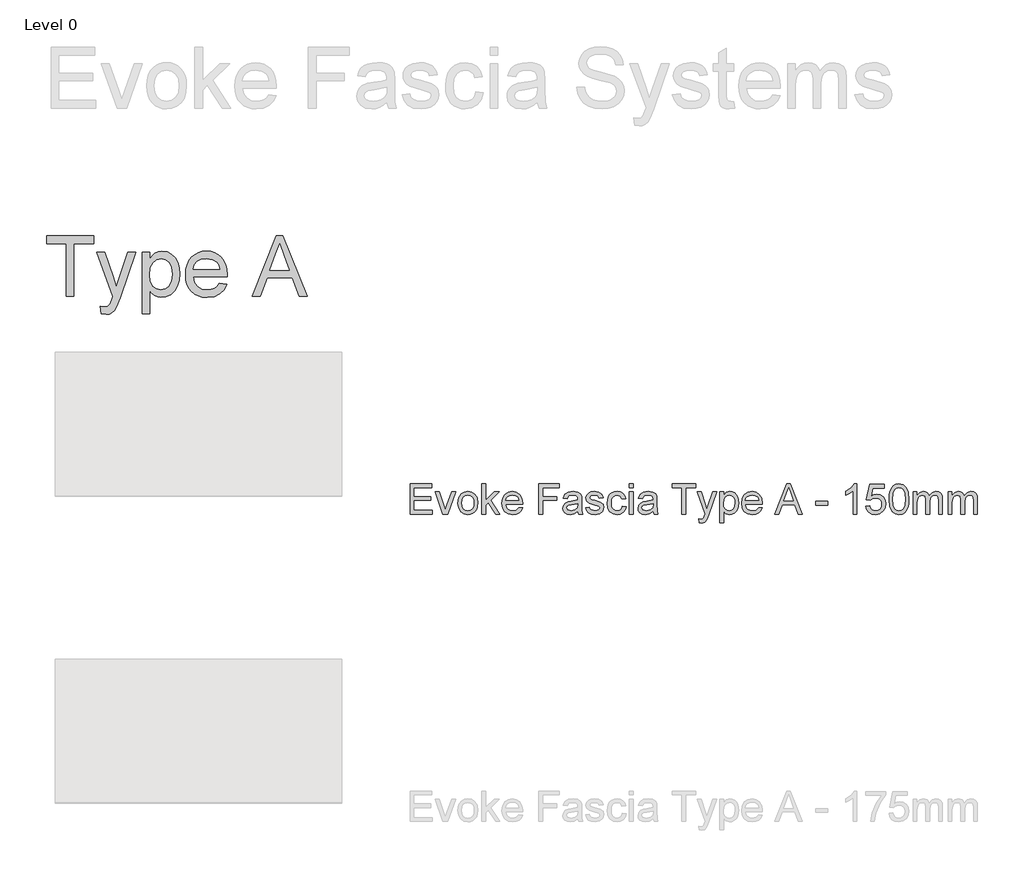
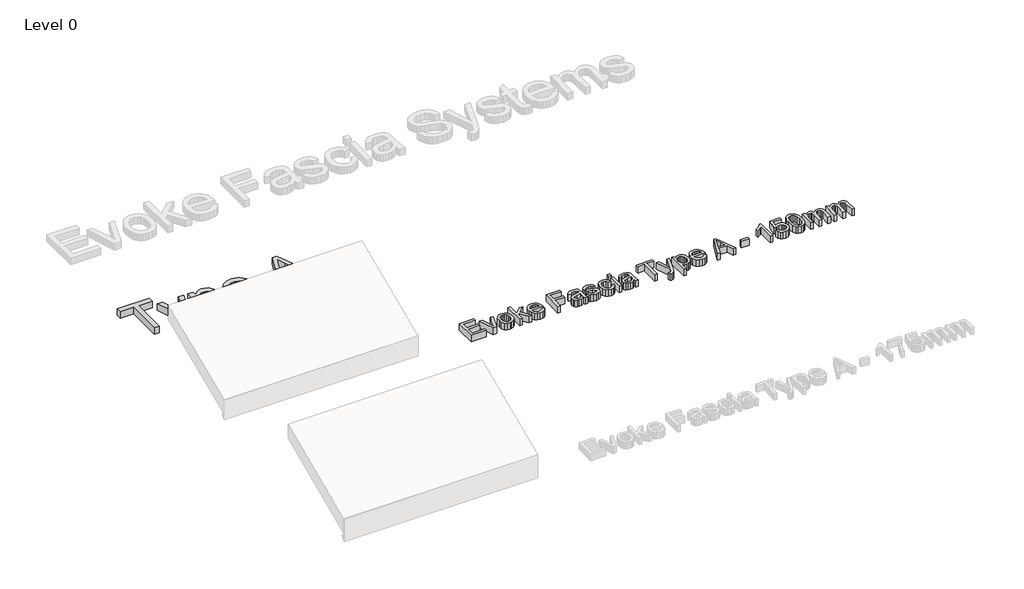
# One storey, part 7 of 13: 2 proxies.
"""IFC4 building model written with IfcOpenShell, lengths in millimetres."""

from ifc_helpers import new_model, si_unit, origin, origin_with_axes, place, context, project, spatial, polyline, outline, extrude, element, save

model = new_model("IFC4")

# Units and contexts
model_context = context("Model", 3, world=origin())
ifc_project = project(units=[si_unit("LENGTHUNIT", "METRE", prefix="MILLI")], contexts=[model_context])

# Site, building, storey
site = spatial("IfcSite", under=ifc_project)
building = spatial("IfcBuilding", under=site)
storey = spatial("IfcBuildingStorey", under=building, Name="Level 0", Elevation=0.0)

# Proxies
placement = place(None, origin())
element("IfcBuildingElementProxy", 1, Name="150mm Arial", ObjectType="150mm Arial", at=placement, inside=storey, context=model_context, shape_type="SweptSolid", body=[
    extrude(outline(polyline([(-1431.2798957, 7360.6682311), (-1431.2798957, 7508.3605388), (-1325.1260496, 7508.3605388), (-1325.1260496, 7489.8990003), (-1412.8183573, 7489.8990003), (-1412.8183573, 7446.0528465), (-1329.7414342, 7446.0528465), (-1329.7414342, 7427.591308), (-1412.8183573, 7427.591308), (-1412.8183573, 7379.1297695), (-1322.8183573, 7379.1297695), (-1322.8183573, 7360.6682311), (-1431.2798957, 7360.6682311)])), origin_with_axes(), (0.0, 0.0, 1.0), 50.0),
    extrude(outline(polyline([(-1270.823165, 7360.6682311), (-1308.9722034, 7469.1297695), (-1289.4289342, 7469.1297695), (-1266.3159534, 7404.153808), (-1259.3568188, 7382.3028465), (-1252.541915, 7402.9278465), (-1229.2847034, 7469.1297695), (-1209.7414342, 7469.1297695), (-1247.4217226, 7360.6682311), (-1270.823165, 7360.6682311)])), origin_with_axes(), (0.0, 0.0, 1.0), 50.0),
    extrude(outline(polyline([(-1198.2029726, 7414.8990003), (-1194.2095832, 7441.0498416), (-1182.229415, 7459.4302503), (-1167.4277323, 7468.435659), (-1149.7053765, 7471.4374618), (-1130.3108452, 7467.7821133), (-1114.8195592, 7456.8160676), (-1104.6648116, 7439.4047094), (-1101.2798957, 7416.4134234), (-1102.77629, 7397.762582), (-1107.2654726, 7383.5648657), (-1114.6167347, 7372.9323537), (-1124.6993669, 7364.9771253), (-1136.6750279, 7360.0146854), (-1149.7053765, 7358.3605388), (-1169.3342827, 7362.0023657), (-1184.80754, 7372.9278465), (-1194.8541145, 7390.7042888), (-1198.2029726, 7414.8990003)]), holes=[polyline([(-1179.7414342, 7414.935058), (-1177.6050159, 7398.2268248), (-1171.1957611, 7386.3232791), (-1161.5503284, 7379.1973777), (-1149.7053765, 7376.8220772), (-1137.9145111, 7379.2108993), (-1128.2871073, 7386.3773657), (-1121.8778525, 7398.4386638), (-1119.7414342, 7415.5119811), (-1121.8913741, 7431.7334354), (-1128.3411938, 7443.4747215), (-1137.9821193, 7450.6006229), (-1149.7053765, 7452.9759234), (-1161.5503284, 7450.6096373), (-1171.1957611, 7443.5107791), (-1177.6050159, 7431.6342767), (-1179.7414342, 7414.935058)])]), origin_with_axes(), (0.0, 0.0, 1.0), 50.0),
    extrude(outline(polyline([(-1080.510665, 7360.6682311), (-1080.510665, 7508.3605388), (-1062.0491265, 7508.3605388), (-1062.0491265, 7428.997558), (-1020.6548957, 7469.1297695), (-995.1260496, 7469.1297695), (-1037.025088, 7428.4927503), (-992.8183573, 7360.6682311), (-1014.3808573, 7360.6682311), (-1050.2582611, 7415.6562118), (-1062.0491265, 7404.2259234), (-1062.0491265, 7360.6682311), (-1080.510665, 7360.6682311)])), origin_with_axes(), (0.0, 0.0, 1.0), 50.0),
    extrude(outline(polyline([(-900.7270111, 7392.9759234), (-882.6260496, 7390.6682311), (-889.1479847, 7377.029409), (-899.5551361, 7366.8340965), (-913.6131289, 7360.4789282), (-931.087588, 7358.3605388), (-952.7492467, 7362.0158873), (-969.416915, 7372.981933), (-980.0449198, 7390.5465364), (-983.587588, 7413.997558), (-980.0088621, 7438.2373416), (-969.2726842, 7456.3653465), (-952.8303765, 7467.669433), (-932.1332611, 7471.4374618), (-912.080677, 7467.6784474), (-896.05754, 7456.4014041), (-885.5512299, 7438.309457), (-882.0491265, 7414.1057311), (-882.1572996, 7409.1297695), (-965.1260496, 7409.1297695), (-961.9304366, 7395.310659), (-954.5070592, 7385.1514041), (-943.7934174, 7378.904409), (-930.7270111, 7376.8220772), (-912.6260496, 7380.6802503), (-900.7270111, 7392.9759234)]), holes=[polyline([(-965.1260496, 7427.591308), (-900.510665, 7427.591308), (-903.0076601, 7437.3449138), (-907.9024919, 7444.3220772), (-918.665713, 7450.8124618), (-932.2053765, 7452.9759234), (-944.6497876, 7451.2496614), (-954.9397515, 7446.0708753), (-962.0926962, 7437.9984594), (-965.1260496, 7427.591308)])]), origin_with_axes(), (0.0, 0.0, 1.0), 50.0),
    extrude(outline(polyline([(-803.587588, 7360.6682311), (-803.587588, 7508.3605388), (-704.3568188, 7508.3605388), (-704.3568188, 7489.8990003), (-785.1260496, 7489.8990003), (-785.1260496, 7446.0528465), (-715.8952803, 7446.0528465), (-715.8952803, 7427.591308), (-785.1260496, 7427.591308), (-785.1260496, 7360.6682311), (-803.587588, 7360.6682311)])), origin_with_axes(), (0.0, 0.0, 1.0), 50.0),
    extrude(outline(polyline([(-612.0491265, 7374.5143849), (-629.9517707, 7362.0023657), (-649.729415, 7358.3605388), (-665.1576001, 7360.5510436), (-676.5383092, 7367.122558), (-683.5560376, 7377.1015243), (-685.8952803, 7389.5143849), (-682.3616265, 7404.1177503), (-673.0767707, 7414.7187118), (-660.150088, 7420.7764041), (-644.1765303, 7423.5528465), (-612.1572996, 7429.8990003), (-612.0491265, 7434.0095772), (-613.3201601, 7442.2487599), (-617.1332611, 7447.6393849), (-625.6609053, 7451.6417888), (-637.541915, 7452.9759234), (-656.2197996, 7449.4242407), (-665.1260496, 7436.8220772), (-683.587588, 7439.1297695), (-675.6008092, 7457.1586157), (-659.5190784, 7467.7235195), (-635.1621073, 7471.4374618), (-612.7883092, 7468.1562118), (-600.150088, 7459.9170291), (-594.4890303, 7447.3869811), (-593.587588, 7431.2331349), (-593.587588, 7408.2643849), (-592.650088, 7376.1910676), (-588.9722034, 7360.6682311), (-607.4337419, 7360.6682311), (-612.0491265, 7374.5143849)]), holes=[polyline([(-612.0491265, 7411.4374618), (-641.8327803, 7405.7764041), (-657.7161938, 7402.7836157), (-664.9097034, 7397.9158272), (-667.4337419, 7390.8124618), (-661.9349438, 7380.8244811), (-645.7991265, 7376.8220772), (-627.1212419, 7381.2391445), (-615.0779726, 7391.9302503), (-612.1572996, 7406.2090965), (-612.0491265, 7411.4374618)])]), origin_with_axes(), (0.0, 0.0, 1.0), 50.0),
    extrude(outline(polyline([(-575.1260496, 7392.9759234), (-556.6645111, 7395.2836157), (-553.7528525, 7387.3869811), (-548.118838, 7381.5816926), (-528.5395111, 7376.8220772), (-509.7173957, 7381.185058), (-503.587588, 7391.4254426), (-509.7534534, 7399.7187118), (-528.7558573, 7404.9831349), (-556.556338, 7414.0155868), (-568.6897515, 7424.5624618), (-572.8183573, 7439.4542888), (-569.5010496, 7453.2102984), (-560.4505688, 7463.7211157), (-548.71379, 7469.1838561), (-532.8303765, 7471.4374618), (-510.3664342, 7467.8136638), (-496.087588, 7458.0059715), (-489.7414342, 7441.4374618), (-508.2029726, 7439.1297695), (-515.1440784, 7449.3160676), (-531.3880688, 7452.9759234), (-549.056338, 7449.4783272), (-554.3568188, 7441.3292888), (-552.1572996, 7435.9566926), (-545.2702803, 7431.8821734), (-529.368838, 7427.9518849), (-502.2714823, 7419.2619811), (-489.6873476, 7409.4182311), (-485.1260496, 7393.372558), (-490.4806169, 7375.7042888), (-505.931338, 7362.8857791), (-528.791915, 7358.3605388), (-547.4066986, 7360.5420291), (-560.9914342, 7367.0865003), (-570.0599438, 7377.9218368), (-575.1260496, 7392.9759234)])), origin_with_axes(), (0.0, 0.0, 1.0), 50.0),
    extrude(outline(polyline([(-395.1260496, 7399.8990003), (-376.6645111, 7397.591308), (-381.8117467, 7381.1715364), (-391.4842226, 7368.763183), (-404.7714823, 7360.9611998), (-420.7630688, 7358.3605388), (-440.4009895, 7361.9888441), (-455.7570592, 7372.8737599), (-465.6684174, 7390.5375219), (-468.9722034, 7414.5023657), (-463.3291746, 7445.169433), (-456.2077803, 7456.6673296), (-446.1296553, 7464.8749618), (-434.0728645, 7469.7968368), (-421.0154726, 7471.4374618), (-405.4160135, 7469.1838561), (-392.9445592, 7462.4230388), (-383.9977443, 7451.5155868), (-378.9722034, 7436.8220772), (-397.4337419, 7434.5143849), (-405.9974438, 7448.3425099), (-420.8712419, 7452.9759234), (-432.8018308, 7450.6952743), (-442.2714823, 7443.8533272), (-448.4508693, 7432.0804907), (-450.510665, 7415.0071734), (-448.4959414, 7397.7039883), (-442.4517707, 7385.8905868), (-433.1533933, 7379.0892046), (-421.3760496, 7376.8220772), (-411.8162539, 7378.2373416), (-403.978213, 7382.4831349), (-398.2765904, 7389.6676301), (-395.1260496, 7399.8990003)])), origin_with_axes(), (0.0, 0.0, 1.0), 50.0),
    extrude(outline(polyline([(-360.510665, 7489.8990003), (-360.510665, 7508.3605388), (-342.0491265, 7508.3605388), (-342.0491265, 7489.8990003), (-360.510665, 7489.8990003)])), origin_with_axes(), (0.0, 0.0, 1.0), 50.0),
    extrude(outline(polyline([(-360.510665, 7360.6682311), (-360.510665, 7469.1297695), (-342.0491265, 7469.1297695), (-342.0491265, 7360.6682311), (-360.510665, 7360.6682311)])), origin_with_axes(), (0.0, 0.0, 1.0), 50.0),
    extrude(outline(polyline([(-245.1260496, 7374.5143849), (-263.0286938, 7362.0023657), (-282.806338, 7358.3605388), (-298.2345231, 7360.5510436), (-309.6152323, 7367.122558), (-316.6329606, 7377.1015243), (-318.9722034, 7389.5143849), (-315.4385496, 7404.1177503), (-306.1536938, 7414.7187118), (-293.2270111, 7420.7764041), (-277.2534534, 7423.5528465), (-245.2342226, 7429.8990003), (-245.1260496, 7434.0095772), (-246.3970832, 7442.2487599), (-250.2101842, 7447.6393849), (-258.7378284, 7451.6417888), (-270.618838, 7452.9759234), (-289.2967226, 7449.4242407), (-298.2029726, 7436.8220772), (-316.6645111, 7439.1297695), (-308.6777323, 7457.1586157), (-292.5960015, 7467.7235195), (-268.2390303, 7471.4374618), (-245.8652323, 7468.1562118), (-233.2270111, 7459.9170291), (-227.5659534, 7447.3869811), (-226.6645111, 7431.2331349), (-226.6645111, 7408.2643849), (-225.7270111, 7376.1910676), (-222.0491265, 7360.6682311), (-240.510665, 7360.6682311), (-245.1260496, 7374.5143849)]), holes=[polyline([(-245.1260496, 7411.4374618), (-274.9097034, 7405.7764041), (-290.7931169, 7402.7836157), (-297.9866265, 7397.9158272), (-300.510665, 7390.8124618), (-295.0118669, 7380.8244811), (-278.8760496, 7376.8220772), (-260.198165, 7381.2391445), (-248.1548957, 7391.9302503), (-245.2342226, 7406.2090965), (-245.1260496, 7411.4374618)])]), origin_with_axes(), (0.0, 0.0, 1.0), 50.0),
    extrude(outline(polyline([(-104.3568188, 7360.6682311), (-104.3568188, 7489.8990003), (-152.8183573, 7489.8990003), (-152.8183573, 7508.3605388), (-37.4337419, 7508.3605388), (-37.4337419, 7489.8990003), (-85.8952803, 7489.8990003), (-85.8952803, 7360.6682311), (-104.3568188, 7360.6682311)])), origin_with_axes(), (0.0, 0.0, 1.0), 50.0),
    extrude(outline(polyline([(-18.9722034, 7319.1297695), (-21.2798957, 7336.9062118), (-11.9048957, 7335.2836157), (-3.1428765, 7337.3208753), (2.2297197, 7342.9999618), (7.2777966, 7356.5937118), (8.7201043, 7361.0648657), (-30.510665, 7469.1297695), (-11.0395111, 7469.1297695), (9.7657774, 7408.9134234), (17.0133735, 7384.8268849), (24.2609697, 7406.1009234), (45.6431812, 7469.1297695), (64.9701043, 7469.1297695), (27.2177004, 7358.0720772), (17.4100081, 7333.9855388), (6.7008735, 7320.9687118), (-7.6861457, 7316.8220772), (-18.9722034, 7319.1297695)])), origin_with_axes(), (0.0, 0.0, 1.0), 50.0),
    extrude(outline(polyline([(80.2585658, 7319.1297695), (80.2585658, 7469.1297695), (98.7201043, 7469.1297695), (98.7201043, 7451.028808), (111.4845274, 7466.3352984), (128.7201043, 7471.4374618), (141.2050802, 7469.6526061), (152.1215466, 7464.2980388), (161.0097677, 7455.6982791), (167.4100081, 7444.1778465), (172.5662581, 7415.7283272), (171.1104288, 7399.9395652), (166.7429408, 7385.8184715), (159.6035177, 7374.0816926), (149.8318831, 7365.4458753), (138.451174, 7360.1318729), (126.4845274, 7358.3605388), (110.4208254, 7363.1021253), (98.7201043, 7375.091308), (98.7201043, 7319.1297695), (80.2585658, 7319.1297695)]), holes=[polyline([(98.7201043, 7414.0336157), (100.716799, 7397.4831349), (106.7068831, 7385.9086157), (115.5455249, 7379.0937118), (126.0878927, 7376.8220772), (136.8015346, 7379.1748416), (145.865537, 7386.2331349), (152.044924, 7398.231332), (154.1047197, 7415.403808), (152.0945033, 7431.8641445), (146.0638543, 7443.6009234), (137.2387341, 7450.6321734), (126.8451043, 7452.9759234), (116.4109096, 7450.4834354), (107.2477485, 7443.0059715), (100.8520153, 7430.7779066), (98.7201043, 7414.0336157)])]), origin_with_axes(), (0.0, 0.0, 1.0), 50.0),
    extrude(outline(polyline([(269.2729889, 7392.9759234), (287.3739504, 7390.6682311), (280.8520153, 7377.029409), (270.4448639, 7366.8340965), (256.3868711, 7360.4789282), (238.912412, 7358.3605388), (217.2507533, 7362.0158873), (200.583085, 7372.981933), (189.9550802, 7390.5465364), (186.412412, 7413.997558), (189.9911379, 7438.2373416), (200.7273158, 7456.3653465), (217.1696235, 7467.669433), (237.8667389, 7471.4374618), (257.919323, 7467.6784474), (273.94246, 7456.4014041), (284.4487701, 7438.309457), (287.9508735, 7414.1057311), (287.8427004, 7409.1297695), (204.8739504, 7409.1297695), (208.0695634, 7395.310659), (215.4929408, 7385.1514041), (226.2065826, 7378.904409), (239.2729889, 7376.8220772), (257.3739504, 7380.6802503), (269.2729889, 7392.9759234)]), holes=[polyline([(204.8739504, 7427.591308), (269.489335, 7427.591308), (266.9923399, 7437.3449138), (262.0975081, 7444.3220772), (251.334287, 7450.8124618), (237.7946235, 7452.9759234), (225.3502124, 7451.2496614), (215.0602485, 7446.0708753), (207.9073038, 7437.9984594), (204.8739504, 7427.591308)])]), origin_with_axes(), (0.0, 0.0, 1.0), 50.0),
    extrude(outline(polyline([(349.2128927, 7360.6682311), (408.1672197, 7508.3605388), (423.8883735, 7508.3605388), (482.8427004, 7360.6682311), (463.3354889, 7360.6682311), (446.4244312, 7406.8220772), (385.5951043, 7406.8220772), (368.7201043, 7360.6682311), (349.2128927, 7360.6682311)]), holes=[polyline([(392.3739504, 7425.2836157), (439.6816427, 7425.2836157), (426.3763543, 7461.5937118), (416.0277966, 7489.8990003), (406.833085, 7464.7667888), (392.3739504, 7425.2836157)])]), origin_with_axes(), (0.0, 0.0, 1.0), 50.0),
    extrude(outline(polyline([(548.7201043, 7404.5143849), (548.7201043, 7422.9759234), (606.412412, 7422.9759234), (606.412412, 7404.5143849), (548.7201043, 7404.5143849)])), origin_with_axes(), (0.0, 0.0, 1.0), 50.0),
    extrude(outline(polyline([(749.489335, 7360.6682311), (731.0277966, 7360.6682311), (731.0277966, 7475.7643849), (713.5398158, 7463.3064522), (694.1047197, 7453.9855388), (694.1047197, 7471.4374618), (721.1660177, 7488.7090965), (737.5902966, 7508.3605388), (749.489335, 7508.3605388), (749.489335, 7360.6682311)])), origin_with_axes(), (0.0, 0.0, 1.0), 50.0),
    extrude(outline(polyline([(793.3354889, 7399.8990003), (811.7970274, 7402.2066926), (815.1864504, 7391.1234594), (821.099912, 7383.1862599), (829.5103687, 7378.4131229), (840.3907774, 7376.8220772), (853.6239504, 7379.0351181), (863.5398158, 7385.6742407), (869.7327245, 7395.9732191), (871.7970274, 7409.1658272), (869.8634336, 7421.5877022), (864.0626524, 7431.0889041), (854.3496115, 7437.1195532), (840.6792389, 7439.1297695), (824.4713062, 7435.9206349), (814.1047197, 7427.591308), (795.6431812, 7429.8990003), (811.7970274, 7506.0528465), (883.3354889, 7506.0528465), (883.3354889, 7487.591308), (826.724912, 7487.591308), (818.8282774, 7446.9182311), (832.0163783, 7454.9230388), (845.8354889, 7457.591308), (863.0845874, 7454.2830147), (877.4039985, 7444.3581349), (887.044924, 7429.231933), (890.2585658, 7410.3196734), (887.364936, 7391.8581349), (878.6840466, 7376.0648657), (862.0614504, 7362.7866205), (840.318662, 7358.3605388), (822.1861499, 7361.2045892), (807.740537, 7369.7367407), (797.8381932, 7382.9654066), (793.3354889, 7399.8990003)])), origin_with_axes(), (0.0, 0.0, 1.0), 50.0),
    extrude(outline(polyline([(906.412412, 7433.3244811), (907.7690826, 7456.9648056), (911.8390947, 7475.8184715), (918.5818831, 7490.1739402), (927.9568831, 7500.3196734), (940.0317028, 7506.3503224), (954.8739504, 7508.3605388), (976.4364504, 7503.6009234), (991.3282774, 7489.8809715), (999.9821235, 7468.0300099), (1003.3354889, 7433.3244811), (1001.9923399, 7409.8193729), (997.9628927, 7391.0107791), (991.2606692, 7376.6417888), (981.8991908, 7366.4554907), (969.7973278, 7360.3842767), (954.8739504, 7358.3605388), (935.6912581, 7361.8761638), (921.1239504, 7372.4230388), (910.0902966, 7397.4020051), (906.412412, 7433.3244811)]), holes=[polyline([(924.8739504, 7433.3605388), (927.037412, 7404.3205748), (933.5277966, 7387.513183), (943.1912581, 7379.4948537), (954.8739504, 7376.8220772), (966.5566427, 7379.5038681), (976.2201043, 7387.5492407), (982.7104889, 7404.3656469), (984.8739504, 7433.3605388), (982.7826043, 7461.746957), (976.5085658, 7478.685058), (966.8631331, 7487.0955147), (954.6576043, 7489.8990003), (943.1011139, 7487.4290484), (933.8162581, 7480.0191926), (927.1095274, 7462.0264041), (924.8739504, 7433.3605388)])]), origin_with_axes(), (0.0, 0.0, 1.0), 50.0),
    extrude(outline(polyline([(1024.1047197, 7360.6682311), (1024.1047197, 7469.1297695), (1042.5662581, 7469.1297695), (1042.5662581, 7451.2812118), (1055.2585658, 7465.9026061), (1073.3234697, 7471.4374618), (1083.5908975, 7470.0267046), (1091.8210658, 7465.794433), (1101.989335, 7449.9831349), (1116.3943831, 7466.0738801), (1134.5854889, 7471.4374618), (1148.4631932, 7469.2063921), (1158.7261139, 7462.513183), (1165.0677605, 7451.177546), (1167.1816427, 7435.0191926), (1167.1816427, 7360.6682311), (1148.7201043, 7360.6682311), (1148.7201043, 7427.0865003), (1147.0073639, 7442.5011638), (1140.8054408, 7450.091308), (1130.2585658, 7452.9759234), (1120.2570634, 7451.1279666), (1112.1035177, 7445.5840965), (1106.6813423, 7435.965707), (1104.8739504, 7421.8941926), (1104.8739504, 7360.6682311), (1086.412412, 7360.6682311), (1086.412412, 7429.1417888), (1082.1395754, 7447.0264041), (1076.5010538, 7451.4885436), (1068.131162, 7452.9759234), (1054.4652966, 7449.0095772), (1045.3787581, 7437.3990003), (1042.5662581, 7415.3677503), (1042.5662581, 7360.6682311), (1024.1047197, 7360.6682311)])), origin_with_axes(), (0.0, 0.0, 1.0), 50.0),
    extrude(outline(polyline([(1194.8739504, 7360.6682311), (1194.8739504, 7469.1297695), (1213.3354889, 7469.1297695), (1213.3354889, 7451.2812118), (1226.0277966, 7465.9026061), (1244.0927004, 7471.4374618), (1254.3601283, 7470.0267046), (1262.5902966, 7465.794433), (1272.7585658, 7449.9831349), (1287.1636139, 7466.0738801), (1305.3547197, 7471.4374618), (1319.232424, 7469.2063921), (1329.4953447, 7462.513183), (1335.8369913, 7451.177546), (1337.9508735, 7435.0191926), (1337.9508735, 7360.6682311), (1319.489335, 7360.6682311), (1319.489335, 7427.0865003), (1317.7765947, 7442.5011638), (1311.5746716, 7450.091308), (1301.0277966, 7452.9759234), (1291.0262942, 7451.1279666), (1282.8727485, 7445.5840965), (1277.450573, 7435.965707), (1275.6431812, 7421.8941926), (1275.6431812, 7360.6682311), (1257.1816427, 7360.6682311), (1257.1816427, 7429.1417888), (1252.9088062, 7447.0264041), (1247.2702846, 7451.4885436), (1238.9003927, 7452.9759234), (1225.2345274, 7449.0095772), (1216.1479889, 7437.3990003), (1213.3354889, 7415.3677503), (1213.3354889, 7360.6682311), (1194.8739504, 7360.6682311)])), origin_with_axes(), (0.0, 0.0, 1.0), 50.0),
])
element("IfcBuildingElementProxy", 2, Name="300mm Arial", ObjectType="300mm Arial", at=placement, inside=storey, context=model_context, shape_type="SweptSolid", body=[
    extrude(outline(polyline([(-3109.0468487, 8422.9991301), (-3109.0468487, 8681.4606686), (-3205.9699256, 8681.4606686), (-3205.9699256, 8718.3837455), (-2975.2006948, 8718.3837455), (-2975.2006948, 8681.4606686), (-3072.1237718, 8681.4606686), (-3072.1237718, 8422.9991301), (-3109.0468487, 8422.9991301)])), origin_with_axes(), (0.0, 0.0, 1.0), 50.0),
    extrude(outline(polyline([(-2938.2776179, 8339.9222071), (-2942.8930025, 8375.4750917), (-2924.1430025, 8372.2298994), (-2906.6189641, 8376.3044186), (-2895.8737718, 8387.6625917), (-2885.7776179, 8414.8500917), (-2882.8930025, 8423.7923994), (-2961.354541, 8639.9222071), (-2922.4122333, 8639.9222071), (-2880.8016564, 8519.4895147), (-2866.3064641, 8471.3164378), (-2851.8112718, 8513.8645147), (-2809.0468487, 8639.9222071), (-2770.3930025, 8639.9222071), (-2845.8978102, 8417.8068224), (-2865.5131948, 8369.6337455), (-2875.5552622, 8354.2551397), (-2886.9314641, 8343.6000917), (-2900.1466083, 8337.3801397), (-2915.7055025, 8335.3068224), (-2938.2776179, 8339.9222071)])), origin_with_axes(), (0.0, 0.0, 1.0), 50.0),
    extrude(outline(polyline([(-2739.8160795, 8339.9222071), (-2739.8160795, 8639.9222071), (-2702.8930025, 8639.9222071), (-2702.8930025, 8603.720284), (-2690.8497333, 8621.5778561), (-2677.3641564, 8634.3332647), (-2661.6430025, 8641.9865099), (-2642.8930025, 8644.5375917), (-2617.9230506, 8640.9678801), (-2596.0901179, 8630.2587455), (-2578.3136756, 8613.0592263), (-2565.5131948, 8590.0183609), (-2557.7788198, 8562.8128321), (-2555.2006948, 8533.1193224), (-2558.1123535, 8501.5417984), (-2566.8473295, 8473.2996109), (-2581.1261756, 8449.8260532), (-2600.6694448, 8432.5544186), (-2623.4308631, 8421.9264138), (-2647.3641564, 8418.3837455), (-2664.338315, 8420.7545388), (-2679.4915602, 8427.8669186), (-2692.463315, 8438.6030965), (-2702.8930025, 8451.845284), (-2702.8930025, 8339.9222071), (-2739.8160795, 8339.9222071)]), holes=[polyline([(-2702.8930025, 8529.7298994), (-2698.8996131, 8496.6289378), (-2686.9194448, 8473.4798994), (-2669.2421612, 8459.8500917), (-2648.1574256, 8455.3068224), (-2626.730142, 8460.0123513), (-2608.6021372, 8474.1289378), (-2596.2433631, 8498.1253321), (-2592.1237718, 8532.470284), (-2596.1442045, 8565.3909571), (-2608.2055025, 8588.8645147), (-2625.8557429, 8602.9270147), (-2646.6430025, 8607.6145147), (-2667.511392, 8602.6295388), (-2685.8377141, 8587.6746109), (-2698.6291804, 8563.2184811), (-2702.8930025, 8529.7298994)])]), origin_with_axes(), (0.0, 0.0, 1.0), 50.0),
    extrude(outline(polyline([(-2361.7872333, 8487.6145147), (-2325.5853102, 8482.9991301), (-2338.6291804, 8455.7214859), (-2359.4434833, 8435.3308609), (-2387.5594689, 8422.6205244), (-2422.5083872, 8418.3837455), (-2445.4185434, 8420.2114198), (-2465.8317045, 8425.6944426), (-2483.7478703, 8434.832814), (-2499.167041, 8447.626534), (-2511.5663799, 8463.7195328), (-2520.4230506, 8482.7557407), (-2525.737053, 8504.7351578), (-2527.5083872, 8529.657784), (-2525.7190242, 8555.4255123), (-2520.3509352, 8578.1373513), (-2511.4041203, 8597.7933008), (-2498.8785795, 8614.3933609), (-2483.4999737, 8627.5814619), (-2465.9939641, 8637.001534), (-2446.3605506, 8642.6535772), (-2424.5997333, 8644.5375917), (-2403.5397874, 8642.6580845), (-2384.494565, 8637.0195628), (-2367.4640662, 8627.6220268), (-2352.448291, 8614.4654763), (-2340.1909292, 8597.9014739), (-2331.4356708, 8578.2815821), (-2326.1825158, 8555.6058008), (-2324.4314641, 8529.8741301), (-2324.6478102, 8519.9222071), (-2490.5853102, 8519.9222071), (-2484.1940843, 8492.2839859), (-2469.3473295, 8471.9654763), (-2447.9200458, 8459.4714859), (-2421.7872333, 8455.3068224), (-2402.135791, 8457.235909), (-2385.5853102, 8463.0231686), (-2372.135791, 8473.0291782), (-2361.7872333, 8487.6145147)]), holes=[polyline([(-2490.5853102, 8556.845284), (-2361.354541, 8556.845284), (-2366.3485314, 8576.3524955), (-2376.1381948, 8590.3068224), (-2397.6646372, 8603.2875917), (-2424.7439641, 8607.6145147), (-2449.6327862, 8604.1619907), (-2470.2127141, 8593.8044186), (-2484.5186035, 8577.6595869), (-2490.5853102, 8556.845284)])]), origin_with_axes(), (0.0, 0.0, 1.0), 50.0),
    extrude(outline(polyline([(-2201.9074256, 8422.9991301), (-2083.9987718, 8718.3837455), (-2052.5564641, 8718.3837455), (-1934.6478102, 8422.9991301), (-1973.6622333, 8422.9991301), (-2007.4843487, 8515.3068224), (-2129.1430025, 8515.3068224), (-2162.8930025, 8422.9991301), (-2201.9074256, 8422.9991301)]), holes=[polyline([(-2115.5853102, 8552.2298994), (-2020.9699256, 8552.2298994), (-2047.5805025, 8624.8500917), (-2068.2776179, 8681.4606686), (-2086.667041, 8631.1962455), (-2115.5853102, 8552.2298994)])]), origin_with_axes(), (0.0, 0.0, 1.0), 50.0),
])

save(model, "model.ifc")
